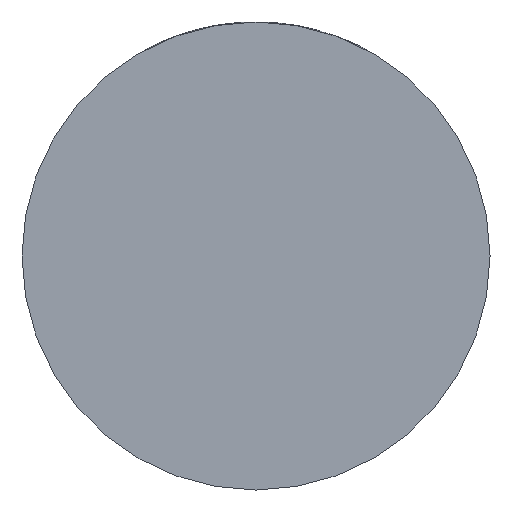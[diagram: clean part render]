
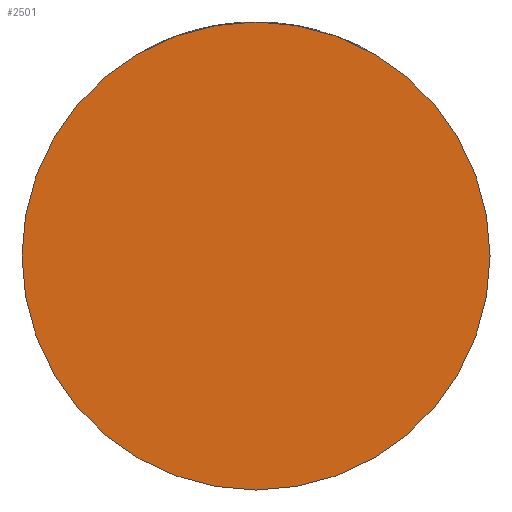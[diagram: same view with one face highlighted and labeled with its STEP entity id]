
A CAD part, front view. The second image highlights one B-rep face of the part: STEP entity #2501.
In plain terms, the highlighted planar face has unit normal (0, -1, 0).
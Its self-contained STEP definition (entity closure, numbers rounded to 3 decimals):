
#269 = CARTESIAN_POINT ( 'NONE',  ( 39., -39., 0. ) ) ;
#409 = DIRECTION ( 'NONE',  ( 0., -1., 0. ) ) ;
#429 = ORIENTED_EDGE ( 'NONE', *, *, #2905, .T. ) ;
#569 = DIRECTION ( 'NONE',  ( 1., 0., 0. ) ) ;
#858 = DIRECTION ( 'NONE',  ( 0., -1., 0. ) ) ;
#1004 = VERTEX_POINT ( 'NONE', #269 ) ;
#1188 = CARTESIAN_POINT ( 'NONE',  ( 0., -39., 0. ) ) ;
#1270 = PLANE ( 'NONE',  #4454 ) ;
#1279 = DIRECTION ( 'NONE',  ( 0., -1., 0. ) ) ;
#1439 = EDGE_CURVE ( 'NONE', #1004, #2296, #4519, .T. ) ;
#1601 = FACE_OUTER_BOUND ( 'NONE', #4173, .T. ) ;
#1740 = AXIS2_PLACEMENT_3D ( 'NONE', #2163, #409, #3215 ) ;
#1798 = AXIS2_PLACEMENT_3D ( 'NONE', #1188, #1279, #569 ) ;
#1850 = ORIENTED_EDGE ( 'NONE', *, *, #1439, .T. ) ;
#2163 = CARTESIAN_POINT ( 'NONE',  ( 0., -39., 0. ) ) ;
#2296 = VERTEX_POINT ( 'NONE', #2456 ) ;
#2319 = CIRCLE ( 'NONE', #1740, 39. ) ;
#2456 = CARTESIAN_POINT ( 'NONE',  ( -39., -39., 0. ) ) ;
#2501 = ADVANCED_FACE ( 'NONE', ( #1601 ), #1270, .T. ) ;
#2670 = DIRECTION ( 'NONE',  ( 1., 0., 0. ) ) ;
#2905 = EDGE_CURVE ( 'NONE', #2296, #1004, #2319, .T. ) ;
#3215 = DIRECTION ( 'NONE',  ( 1., 0., 0. ) ) ;
#4055 = CARTESIAN_POINT ( 'NONE',  ( 0., -39., 0. ) ) ;
#4173 = EDGE_LOOP ( 'NONE', ( #429, #1850 ) ) ;
#4454 = AXIS2_PLACEMENT_3D ( 'NONE', #4055, #858, #2670 ) ;
#4519 = CIRCLE ( 'NONE', #1798, 39. ) ;
